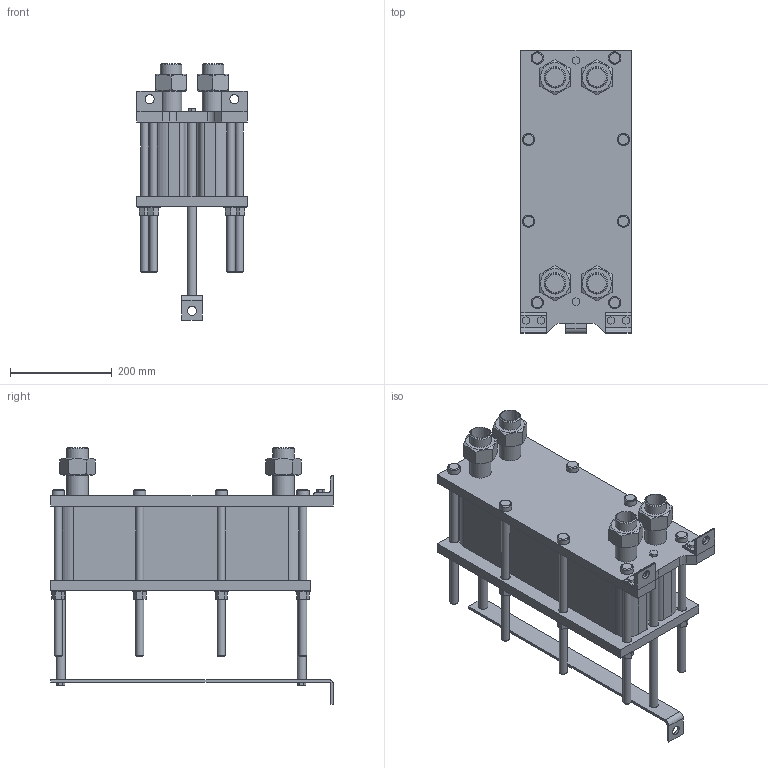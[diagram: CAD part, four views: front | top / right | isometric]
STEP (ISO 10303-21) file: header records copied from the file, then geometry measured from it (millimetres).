
FILE_DESCRIPTION(/* description */ (''),/* implementation_level */ '2;1');
FILE_NAME(/* name */ 'C:\Users\zhuro\Desktop\ENCO\TO\ЭН-004\ЭН-0,5-004-47-1.stp',/* time_stamp */ '2022-06-06T10:46:51+03:00',/* author */ ('zhuro'),/* organization */ (''),/* preprocessor_version */ 'ST-DEVELOPER v18.1',/* originating_system */ 'Autodesk Inventor 2022',/* authorisation */ '');
FILE_SCHEMA (('AUTOMOTIVE_DESIGN { 1 0 10303 214 3 1 1 }'));
Length unit declared in the file: millimetre
Products named in the file (1): ЭН-0,5-004-47-1
Bounding box: 216 x 555 x 502.6 mm (x, y, z)
Volume: 16495409.9 mm3; surface area: 1274454.8 mm2
Topology: 40 solids, 40 shells, 403 faces, 865 edges, 574 vertices
Faces by surface type: plane 272, cylinder 103, cone 28
Full cylindrical faces by diameter (mm): 10 x4, 16 x16, 18 x29, 20 x2, 24 x8, 28 x8, 36.3 x5, 42.3 x9
Entity records: 11137 total; most frequent: CARTESIAN_POINT 1939, DIRECTION 1879, ORIENTED_EDGE 1730, EDGE_CURVE 865, AXIS2_PLACEMENT_3D 658, VERTEX_POINT 574, LINE 563, VECTOR 563
